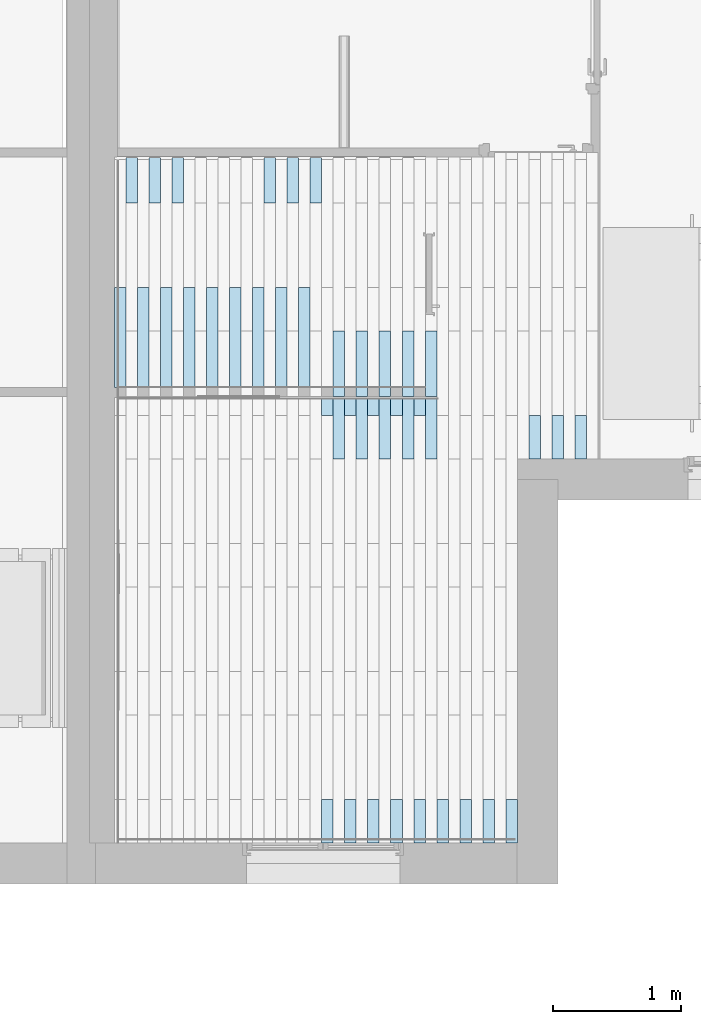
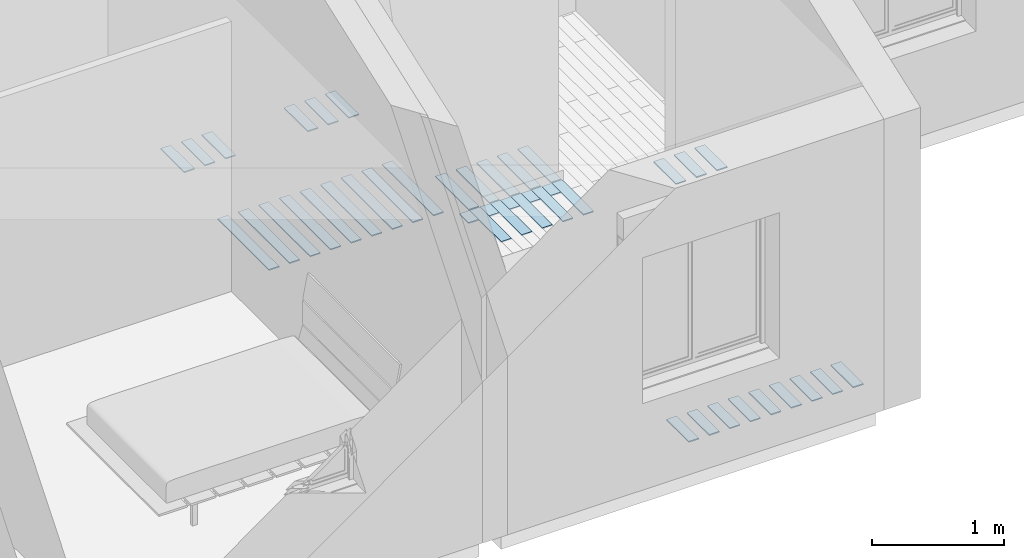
# One storey, part 6 of 61: 42 slabs.
"""IFC2X3 building model written with IfcOpenShell, lengths in metres."""

from ifc_helpers import new_model, entity, si_unit, converted_unit, derived_unit, direction, frame, frame_2d, origin, place, context, subcontext, project, spatial, rectangle, extrude, material, layer, layer_set, layer_usage, type_object, element, save


model = new_model("IFC2X3")

# Units and contexts
model_context = context("Model", 3, precision=1e-05, world=origin(), true_north=direction((6.12303176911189e-17, 1.0)))
body_context = subcontext(model_context, "Body", "Model", "MODEL_VIEW")
ifc_project = project(units=[si_unit("LENGTHUNIT", "METRE"), si_unit("AREAUNIT", "SQUARE_METRE"), si_unit("VOLUMEUNIT", "CUBIC_METRE"), converted_unit("PLANEANGLEUNIT", "DEGREE", entity("IfcRatioMeasure", 0.0174532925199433), si_unit("PLANEANGLEUNIT", "RADIAN"), dimensions=[0, 0, 0, 0, 0, 0, 0]), si_unit("MASSUNIT", "GRAM", prefix="KILO"), derived_unit("MASSDENSITYUNIT", [(si_unit("MASSUNIT", "GRAM", prefix="KILO"), 1), (si_unit("LENGTHUNIT", "METRE"), -3)]), si_unit("TIMEUNIT", "SECOND"), si_unit("FREQUENCYUNIT", "HERTZ"), si_unit("THERMODYNAMICTEMPERATUREUNIT", "DEGREE_CELSIUS"), derived_unit("THERMALTRANSMITTANCEUNIT", [(si_unit("MASSUNIT", "GRAM", prefix="KILO"), 1), (si_unit("THERMODYNAMICTEMPERATUREUNIT", "KELVIN"), -1), (si_unit("TIMEUNIT", "SECOND"), -3)]), derived_unit("VOLUMETRICFLOWRATEUNIT", [(si_unit("LENGTHUNIT", "METRE"), 3), (si_unit("TIMEUNIT", "SECOND"), -1)]), si_unit("ELECTRICCURRENTUNIT", "AMPERE"), si_unit("ELECTRICVOLTAGEUNIT", "VOLT"), si_unit("POWERUNIT", "WATT"), si_unit("FORCEUNIT", "NEWTON", prefix="KILO"), si_unit("ILLUMINANCEUNIT", "LUX"), si_unit("LUMINOUSFLUXUNIT", "LUMEN"), si_unit("LUMINOUSINTENSITYUNIT", "CANDELA"), derived_unit("USERDEFINED", [(si_unit("MASSUNIT", "GRAM", prefix="KILO"), -1), (si_unit("LENGTHUNIT", "METRE"), -2), (si_unit("TIMEUNIT", "SECOND"), 3), (si_unit("LUMINOUSFLUXUNIT", "LUMEN"), 1)]), derived_unit("LINEARVELOCITYUNIT", [(si_unit("LENGTHUNIT", "METRE"), 1), (si_unit("TIMEUNIT", "SECOND"), -1)]), si_unit("PRESSUREUNIT", "PASCAL"), derived_unit("USERDEFINED", [(si_unit("LENGTHUNIT", "METRE"), -2), (si_unit("MASSUNIT", "GRAM", prefix="KILO"), 1), (si_unit("TIMEUNIT", "SECOND"), -2)])], contexts=[model_context])

# Site, building, storey
site_placement = place(None, origin())
site = spatial("IfcSite", under=ifc_project, at=site_placement, Name="Surface", CompositionType="ELEMENT")
building_placement = place(site_placement, origin())
building = spatial("IfcBuilding", under=site, at=building_placement, CompositionType="ELEMENT")
storey_placement = place(building_placement, frame((0.0, 0.0, 2.82)))
storey = spatial("IfcBuildingStorey", under=building, at=storey_placement, Name="ETAGE", CompositionType="ELEMENT", Elevation=2.82)

# Slabs
ifc_material = material(Name="PARQUET BAMBOU")
ifc_layer = layer(ifc_material, 0.01)
ifc_layer_set = layer_set([ifc_layer], Name="Sol:LAME DE BAMBOU")
ifc_layer_usage_1 = layer_usage(ifc_layer_set, "AXIS3", "POSITIVE", 0.0)
slab_type_1 = type_object("IfcSlabType", Name="Sol:LAME DE BAMBOU", PredefinedType="FLOOR", material=ifc_layer_set)
slab_1_placement = place(storey_placement, origin())
element("IfcSlab", 1, at=slab_1_placement, inside=storey, type_object=slab_type_1, material=ifc_layer_usage_1, Name="Sol:LAME DE BAMBOU", ObjectType="Sol:LAME DE BAMBOU", PredefinedType="FLOOR", context=body_context, shape_type="SweptSolid", body=[
    extrude(rectangle(XDim=0.339999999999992, YDim=0.0899999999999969, at=frame_2d((0.0, 8.66320903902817e-15), x_axis=(1.0, 0.0))), frame((85.566089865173, 81.4175239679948, 0.05), z_axis=(0.0, 0.0, -1.0), x_axis=(0.0, 1.0, 0.0)), (0.0, 0.0, 1.0), 0.00999999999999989),
])
ifc_layer_usage_2 = layer_usage(ifc_layer_set, "AXIS3", "POSITIVE", 0.0)
slab_type_2 = type_object("IfcSlabType", Name="Sol:LAME DE BAMBOU", PredefinedType="FLOOR", material=ifc_layer_set)
slab_2_placement = place(storey_placement, origin())
element("IfcSlab", 2, at=slab_2_placement, inside=storey, type_object=slab_type_2, material=ifc_layer_usage_2, Name="Sol:LAME DE BAMBOU", ObjectType="Sol:LAME DE BAMBOU", PredefinedType="FLOOR", context=body_context, shape_type="SweptSolid", body=[
    extrude(rectangle(XDim=0.139570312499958, YDim=0.0899999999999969, at=frame_2d((8.65973959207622e-15, 8.66320903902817e-15), x_axis=(1.0, 0.0))), frame((85.566089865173, 84.6573091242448, 0.05), z_axis=(0.0, 0.0, -1.0), x_axis=(0.0, 1.0, 0.0)), (0.0, 0.0, 1.0), 0.00999999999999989),
])
ifc_layer_usage_3 = layer_usage(ifc_layer_set, "AXIS3", "POSITIVE", 0.0)
slab_type_3 = type_object("IfcSlabType", Name="Sol:LAME DE BAMBOU", PredefinedType="FLOOR", material=ifc_layer_set)
slab_3_placement = place(storey_placement, origin())
element("IfcSlab", 3, at=slab_3_placement, inside=storey, type_object=slab_type_3, material=ifc_layer_usage_3, Name="Sol:LAME DE BAMBOU", ObjectType="Sol:LAME DE BAMBOU", PredefinedType="FLOOR", context=body_context, shape_type="SweptSolid", body=[
    extrude(rectangle(XDim=0.479580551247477, YDim=0.0899999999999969, at=frame_2d((8.65973959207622e-15, -8.66320903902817e-15), x_axis=(1.0, 0.0))), frame((85.656089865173, 84.4873142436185, 0.05), z_axis=(0.0, 0.0, -1.0), x_axis=(0.0, 1.0, 0.0)), (0.0, 0.0, 1.0), 0.00999999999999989),
])
ifc_layer_usage_4 = layer_usage(ifc_layer_set, "AXIS3", "POSITIVE", 0.0)
slab_type_4 = type_object("IfcSlabType", Name="Sol:LAME DE BAMBOU", PredefinedType="FLOOR", material=ifc_layer_set)
slab_4_placement = place(storey_placement, origin())
element("IfcSlab", 4, at=slab_4_placement, inside=storey, type_object=slab_type_4, material=ifc_layer_usage_4, Name="Sol:LAME DE BAMBOU", ObjectType="Sol:LAME DE BAMBOU", PredefinedType="FLOOR", context=body_context, shape_type="SweptSolid", body=[
    extrude(rectangle(XDim=0.339999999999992, YDim=0.0899999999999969, at=frame_2d((0.0, 8.66320903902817e-15), x_axis=(1.0, 0.0))), frame((85.746089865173, 81.4175239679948, 0.05), z_axis=(0.0, 0.0, -1.0), x_axis=(0.0, 1.0, 0.0)), (0.0, 0.0, 1.0), 0.00999999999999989),
])
ifc_layer_usage_5 = layer_usage(ifc_layer_set, "AXIS3", "POSITIVE", 0.0)
slab_type_5 = type_object("IfcSlabType", Name="Sol:LAME DE BAMBOU", PredefinedType="FLOOR", material=ifc_layer_set)
slab_5_placement = place(storey_placement, origin())
element("IfcSlab", 5, at=slab_5_placement, inside=storey, type_object=slab_type_5, material=ifc_layer_usage_5, Name="Sol:LAME DE BAMBOU", ObjectType="Sol:LAME DE BAMBOU", PredefinedType="FLOOR", context=body_context, shape_type="SweptSolid", body=[
    extrude(rectangle(XDim=0.139570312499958, YDim=0.0899999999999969, at=frame_2d((8.65973959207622e-15, 8.66320903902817e-15), x_axis=(1.0, 0.0))), frame((85.746089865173, 84.6573091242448, 0.05), z_axis=(0.0, 0.0, -1.0), x_axis=(0.0, 1.0, 0.0)), (0.0, 0.0, 1.0), 0.00999999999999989),
])
ifc_layer_usage_6 = layer_usage(ifc_layer_set, "AXIS3", "POSITIVE", 0.0)
slab_type_6 = type_object("IfcSlabType", Name="Sol:LAME DE BAMBOU", PredefinedType="FLOOR", material=ifc_layer_set)
slab_6_placement = place(storey_placement, origin())
element("IfcSlab", 6, at=slab_6_placement, inside=storey, type_object=slab_type_6, material=ifc_layer_usage_6, Name="Sol:LAME DE BAMBOU", ObjectType="Sol:LAME DE BAMBOU", PredefinedType="FLOOR", context=body_context, shape_type="SweptSolid", body=[
    extrude(rectangle(XDim=0.479580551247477, YDim=0.0899999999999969, at=frame_2d((8.65973959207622e-15, 8.66320903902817e-15), x_axis=(1.0, 0.0))), frame((85.836089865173, 84.4873142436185, 0.05), z_axis=(0.0, 0.0, -1.0), x_axis=(0.0, 1.0, 0.0)), (0.0, 0.0, 1.0), 0.00999999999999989),
])
ifc_layer_usage_7 = layer_usage(ifc_layer_set, "AXIS3", "POSITIVE", 0.0)
slab_type_7 = type_object("IfcSlabType", Name="Sol:LAME DE BAMBOU", PredefinedType="FLOOR", material=ifc_layer_set)
slab_7_placement = place(storey_placement, origin())
element("IfcSlab", 7, at=slab_7_placement, inside=storey, type_object=slab_type_7, material=ifc_layer_usage_7, Name="Sol:LAME DE BAMBOU", ObjectType="Sol:LAME DE BAMBOU", PredefinedType="FLOOR", context=body_context, shape_type="SweptSolid", body=[
    extrude(rectangle(XDim=0.339999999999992, YDim=0.0899999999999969, at=frame_2d((0.0, 8.66320903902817e-15), x_axis=(1.0, 0.0))), frame((85.926089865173, 81.4175239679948, 0.05), z_axis=(0.0, 0.0, -1.0), x_axis=(0.0, 1.0, 0.0)), (0.0, 0.0, 1.0), 0.00999999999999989),
])
ifc_layer_usage_8 = layer_usage(ifc_layer_set, "AXIS3", "POSITIVE", 0.0)
slab_type_8 = type_object("IfcSlabType", Name="Sol:LAME DE BAMBOU", PredefinedType="FLOOR", material=ifc_layer_set)
slab_8_placement = place(storey_placement, origin())
element("IfcSlab", 8, at=slab_8_placement, inside=storey, type_object=slab_type_8, material=ifc_layer_usage_8, Name="Sol:LAME DE BAMBOU", ObjectType="Sol:LAME DE BAMBOU", PredefinedType="FLOOR", context=body_context, shape_type="SweptSolid", body=[
    extrude(rectangle(XDim=0.139570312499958, YDim=0.0899999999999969, at=frame_2d((8.65973959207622e-15, 8.66320903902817e-15), x_axis=(1.0, 0.0))), frame((85.926089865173, 84.6573091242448, 0.05), z_axis=(0.0, 0.0, -1.0), x_axis=(0.0, 1.0, 0.0)), (0.0, 0.0, 1.0), 0.00999999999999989),
])
ifc_layer_usage_9 = layer_usage(ifc_layer_set, "AXIS3", "POSITIVE", 0.0)
slab_type_9 = type_object("IfcSlabType", Name="Sol:LAME DE BAMBOU", PredefinedType="FLOOR", material=ifc_layer_set)
slab_9_placement = place(storey_placement, origin())
element("IfcSlab", 9, at=slab_9_placement, inside=storey, type_object=slab_type_9, material=ifc_layer_usage_9, Name="Sol:LAME DE BAMBOU", ObjectType="Sol:LAME DE BAMBOU", PredefinedType="FLOOR", context=body_context, shape_type="SweptSolid", body=[
    extrude(rectangle(XDim=0.479580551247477, YDim=0.0899999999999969, at=frame_2d((8.65973959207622e-15, -8.66320903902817e-15), x_axis=(1.0, 0.0))), frame((86.016089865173, 84.4873142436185, 0.05), z_axis=(0.0, 0.0, -1.0), x_axis=(0.0, 1.0, 0.0)), (0.0, 0.0, 1.0), 0.00999999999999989),
])
ifc_layer_usage_10 = layer_usage(ifc_layer_set, "AXIS3", "POSITIVE", 0.0)
slab_type_10 = type_object("IfcSlabType", Name="Sol:LAME DE BAMBOU", PredefinedType="FLOOR", material=ifc_layer_set)
slab_10_placement = place(storey_placement, origin())
element("IfcSlab", 10, at=slab_10_placement, inside=storey, type_object=slab_type_10, material=ifc_layer_usage_10, Name="Sol:LAME DE BAMBOU", ObjectType="Sol:LAME DE BAMBOU", PredefinedType="FLOOR", context=body_context, shape_type="SweptSolid", body=[
    extrude(rectangle(XDim=0.339999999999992, YDim=0.0899999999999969, at=frame_2d((0.0, 8.66320903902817e-15), x_axis=(1.0, 0.0))), frame((86.106089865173, 81.4175239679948, 0.05), z_axis=(0.0, 0.0, -1.0), x_axis=(0.0, 1.0, 0.0)), (0.0, 0.0, 1.0), 0.00999999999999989),
])
ifc_layer_usage_11 = layer_usage(ifc_layer_set, "AXIS3", "POSITIVE", 0.0)
slab_type_11 = type_object("IfcSlabType", Name="Sol:LAME DE BAMBOU", PredefinedType="FLOOR", material=ifc_layer_set)
slab_11_placement = place(storey_placement, origin())
element("IfcSlab", 11, at=slab_11_placement, inside=storey, type_object=slab_type_11, material=ifc_layer_usage_11, Name="Sol:LAME DE BAMBOU", ObjectType="Sol:LAME DE BAMBOU", PredefinedType="FLOOR", context=body_context, shape_type="SweptSolid", body=[
    extrude(rectangle(XDim=0.139570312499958, YDim=0.0899999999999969, at=frame_2d((8.65973959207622e-15, 8.66320903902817e-15), x_axis=(1.0, 0.0))), frame((86.106089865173, 84.6573091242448, 0.05), z_axis=(0.0, 0.0, -1.0), x_axis=(0.0, 1.0, 0.0)), (0.0, 0.0, 1.0), 0.00999999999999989),
])
ifc_layer_usage_12 = layer_usage(ifc_layer_set, "AXIS3", "POSITIVE", 0.0)
slab_type_12 = type_object("IfcSlabType", Name="Sol:LAME DE BAMBOU", PredefinedType="FLOOR", material=ifc_layer_set)
slab_12_placement = place(storey_placement, origin())
element("IfcSlab", 12, at=slab_12_placement, inside=storey, type_object=slab_type_12, material=ifc_layer_usage_12, Name="Sol:LAME DE BAMBOU", ObjectType="Sol:LAME DE BAMBOU", PredefinedType="FLOOR", context=body_context, shape_type="SweptSolid", body=[
    extrude(rectangle(XDim=0.479580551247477, YDim=0.0899999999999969, at=frame_2d((8.65973959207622e-15, 8.66320903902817e-15), x_axis=(1.0, 0.0))), frame((86.196089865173, 84.4873142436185, 0.05), z_axis=(0.0, 0.0, -1.0), x_axis=(0.0, 1.0, 0.0)), (0.0, 0.0, 1.0), 0.00999999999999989),
])
ifc_layer_usage_13 = layer_usage(ifc_layer_set, "AXIS3", "POSITIVE", 0.0)
slab_type_13 = type_object("IfcSlabType", Name="Sol:LAME DE BAMBOU", PredefinedType="FLOOR", material=ifc_layer_set)
slab_13_placement = place(storey_placement, origin())
element("IfcSlab", 13, at=slab_13_placement, inside=storey, type_object=slab_type_13, material=ifc_layer_usage_13, Name="Sol:LAME DE BAMBOU", ObjectType="Sol:LAME DE BAMBOU", PredefinedType="FLOOR", context=body_context, shape_type="SweptSolid", body=[
    extrude(rectangle(XDim=0.339999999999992, YDim=0.0899999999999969, at=frame_2d((0.0, 8.66320903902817e-15), x_axis=(1.0, 0.0))), frame((86.286089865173, 81.4175239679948, 0.05), z_axis=(0.0, 0.0, -1.0), x_axis=(0.0, 1.0, 0.0)), (0.0, 0.0, 1.0), 0.00999999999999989),
])
ifc_layer_usage_14 = layer_usage(ifc_layer_set, "AXIS3", "POSITIVE", 0.0)
slab_type_14 = type_object("IfcSlabType", Name="Sol:LAME DE BAMBOU", PredefinedType="FLOOR", material=ifc_layer_set)
slab_14_placement = place(storey_placement, origin())
element("IfcSlab", 14, at=slab_14_placement, inside=storey, type_object=slab_type_14, material=ifc_layer_usage_14, Name="Sol:LAME DE BAMBOU", ObjectType="Sol:LAME DE BAMBOU", PredefinedType="FLOOR", context=body_context, shape_type="SweptSolid", body=[
    extrude(rectangle(XDim=0.139570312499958, YDim=0.0899999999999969, at=frame_2d((8.65973959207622e-15, 8.66320903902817e-15), x_axis=(1.0, 0.0))), frame((86.286089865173, 84.6573091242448, 0.05), z_axis=(0.0, 0.0, -1.0), x_axis=(0.0, 1.0, 0.0)), (0.0, 0.0, 1.0), 0.00999999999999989),
])
ifc_layer_usage_15 = layer_usage(ifc_layer_set, "AXIS3", "POSITIVE", 0.0)
slab_type_15 = type_object("IfcSlabType", Name="Sol:LAME DE BAMBOU", PredefinedType="FLOOR", material=ifc_layer_set)
slab_15_placement = place(storey_placement, origin())
element("IfcSlab", 15, at=slab_15_placement, inside=storey, type_object=slab_type_15, material=ifc_layer_usage_15, Name="Sol:LAME DE BAMBOU", ObjectType="Sol:LAME DE BAMBOU", PredefinedType="FLOOR", context=body_context, shape_type="SweptSolid", body=[
    extrude(rectangle(XDim=0.479580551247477, YDim=0.0899999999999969, at=frame_2d((8.65973959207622e-15, -8.66320903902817e-15), x_axis=(1.0, 0.0))), frame((86.376089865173, 84.4873142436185, 0.05), z_axis=(0.0, 0.0, -1.0), x_axis=(0.0, 1.0, 0.0)), (0.0, 0.0, 1.0), 0.00999999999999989),
])
ifc_layer_usage_16 = layer_usage(ifc_layer_set, "AXIS3", "POSITIVE", 0.0)
slab_type_16 = type_object("IfcSlabType", Name="Sol:LAME DE BAMBOU", PredefinedType="FLOOR", material=ifc_layer_set)
slab_16_placement = place(storey_placement, origin())
element("IfcSlab", 16, at=slab_16_placement, inside=storey, type_object=slab_type_16, material=ifc_layer_usage_16, Name="Sol:LAME DE BAMBOU", ObjectType="Sol:LAME DE BAMBOU", PredefinedType="FLOOR", context=body_context, shape_type="SweptSolid", body=[
    extrude(rectangle(XDim=0.339999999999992, YDim=0.0899999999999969, at=frame_2d((0.0, 8.66320903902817e-15), x_axis=(1.0, 0.0))), frame((86.466089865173, 81.4175239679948, 0.05), z_axis=(0.0, 0.0, -1.0), x_axis=(0.0, 1.0, 0.0)), (0.0, 0.0, 1.0), 0.00999999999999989),
])
ifc_layer_usage_17 = layer_usage(ifc_layer_set, "AXIS3", "POSITIVE", 0.0)
slab_type_17 = type_object("IfcSlabType", Name="Sol:LAME DE BAMBOU", PredefinedType="FLOOR", material=ifc_layer_set)
slab_17_placement = place(storey_placement, origin())
element("IfcSlab", 17, at=slab_17_placement, inside=storey, type_object=slab_type_17, material=ifc_layer_usage_17, Name="Sol:LAME DE BAMBOU", ObjectType="Sol:LAME DE BAMBOU", PredefinedType="FLOOR", context=body_context, shape_type="SweptSolid", body=[
    extrude(rectangle(XDim=0.339999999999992, YDim=0.0899999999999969, at=frame_2d((0.0, 8.66320903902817e-15), x_axis=(1.0, 0.0))), frame((86.646089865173, 81.4175239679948, 0.05), z_axis=(0.0, 0.0, -1.0), x_axis=(0.0, 1.0, 0.0)), (0.0, 0.0, 1.0), 0.00999999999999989),
])
ifc_layer_usage_18 = layer_usage(ifc_layer_set, "AXIS3", "POSITIVE", 0.0)
slab_type_18 = type_object("IfcSlabType", Name="Sol:LAME DE BAMBOU", PredefinedType="FLOOR", material=ifc_layer_set)
slab_18_placement = place(storey_placement, origin())
element("IfcSlab", 18, at=slab_18_placement, inside=storey, type_object=slab_type_18, material=ifc_layer_usage_18, Name="Sol:LAME DE BAMBOU", ObjectType="Sol:LAME DE BAMBOU", PredefinedType="FLOOR", context=body_context, shape_type="SweptSolid", body=[
    extrude(rectangle(XDim=0.339999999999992, YDim=0.0899999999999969, at=frame_2d((0.0, 8.66320903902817e-15), x_axis=(1.0, 0.0))), frame((86.826089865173, 81.4175239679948, 0.05), z_axis=(0.0, 0.0, -1.0), x_axis=(0.0, 1.0, 0.0)), (0.0, 0.0, 1.0), 0.00999999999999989),
])
ifc_layer_usage_19 = layer_usage(ifc_layer_set, "AXIS3", "POSITIVE", 0.0)
slab_type_19 = type_object("IfcSlabType", Name="Sol:LAME DE BAMBOU", PredefinedType="FLOOR", material=ifc_layer_set)
slab_19_placement = place(storey_placement, origin())
element("IfcSlab", 19, at=slab_19_placement, inside=storey, type_object=slab_type_19, material=ifc_layer_usage_19, Name="Sol:LAME DE BAMBOU", ObjectType="Sol:LAME DE BAMBOU", PredefinedType="FLOOR", context=body_context, shape_type="SweptSolid", body=[
    extrude(rectangle(XDim=0.339999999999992, YDim=0.0899999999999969, at=frame_2d((0.0, 8.66320903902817e-15), x_axis=(1.0, 0.0))), frame((87.006089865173, 81.4175239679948, 0.05), z_axis=(0.0, 0.0, -1.0), x_axis=(0.0, 1.0, 0.0)), (0.0, 0.0, 1.0), 0.00999999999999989),
])
ifc_layer_usage_20 = layer_usage(ifc_layer_set, "AXIS3", "POSITIVE", 0.0)
slab_type_20 = type_object("IfcSlabType", Name="Sol:LAME DE BAMBOU", PredefinedType="FLOOR", material=ifc_layer_set)
slab_20_placement = place(storey_placement, origin())
element("IfcSlab", 20, at=slab_20_placement, inside=storey, type_object=slab_type_20, material=ifc_layer_usage_20, Name="Sol:LAME DE BAMBOU", ObjectType="Sol:LAME DE BAMBOU", PredefinedType="FLOOR", context=body_context, shape_type="SweptSolid", body=[
    extrude(rectangle(XDim=0.339999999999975, YDim=0.0899999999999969, at=frame_2d((-8.67361737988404e-15, 8.66320903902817e-15), x_axis=(1.0, 0.0))), frame((87.1861607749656, 84.4175239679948, 0.05), z_axis=(0.0, 0.0, -1.0), x_axis=(0.0, 1.0, 0.0)), (0.0, 0.0, 1.0), 0.00999999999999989),
])
ifc_layer_usage_21 = layer_usage(ifc_layer_set, "AXIS3", "POSITIVE", 0.0)
slab_type_21 = type_object("IfcSlabType", Name="Sol:LAME DE BAMBOU", PredefinedType="FLOOR", material=ifc_layer_set)
slab_21_placement = place(storey_placement, origin())
element("IfcSlab", 21, at=slab_21_placement, inside=storey, type_object=slab_type_21, material=ifc_layer_usage_21, Name="Sol:LAME DE BAMBOU", ObjectType="Sol:LAME DE BAMBOU", PredefinedType="FLOOR", context=body_context, shape_type="SweptSolid", body=[
    extrude(rectangle(XDim=0.339999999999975, YDim=0.0899999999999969, at=frame_2d((-8.67361737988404e-15, -8.66320903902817e-15), x_axis=(1.0, 0.0))), frame((87.3661607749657, 84.4175239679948, 0.05), z_axis=(0.0, 0.0, -1.0), x_axis=(0.0, 1.0, 0.0)), (0.0, 0.0, 1.0), 0.00999999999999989),
])
ifc_layer_usage_22 = layer_usage(ifc_layer_set, "AXIS3", "POSITIVE", 0.0)
slab_type_22 = type_object("IfcSlabType", Name="Sol:LAME DE BAMBOU", PredefinedType="FLOOR", material=ifc_layer_set)
slab_22_placement = place(storey_placement, origin())
element("IfcSlab", 22, at=slab_22_placement, inside=storey, type_object=slab_type_22, material=ifc_layer_usage_22, Name="Sol:LAME DE BAMBOU", ObjectType="Sol:LAME DE BAMBOU", PredefinedType="FLOOR", context=body_context, shape_type="SweptSolid", body=[
    extrude(rectangle(XDim=0.339999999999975, YDim=0.0899999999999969, at=frame_2d((-8.67361737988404e-15, 8.66320903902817e-15), x_axis=(1.0, 0.0))), frame((87.5461607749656, 84.4175239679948, 0.05), z_axis=(0.0, 0.0, -1.0), x_axis=(0.0, 1.0, 0.0)), (0.0, 0.0, 1.0), 0.00999999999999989),
])
ifc_layer_usage_23 = layer_usage(ifc_layer_set, "AXIS3", "POSITIVE", 0.0)
slab_type_23 = type_object("IfcSlabType", Name="Sol:LAME DE BAMBOU", PredefinedType="FLOOR", material=ifc_layer_set)
slab_23_placement = place(storey_placement, origin())
element("IfcSlab", 23, at=slab_23_placement, inside=storey, type_object=slab_type_23, material=ifc_layer_usage_23, Name="Sol:LAME DE BAMBOU", ObjectType="Sol:LAME DE BAMBOU", PredefinedType="FLOOR", context=body_context, shape_type="SweptSolid", body=[
    extrude(rectangle(XDim=0.510000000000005, YDim=0.0899999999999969, at=frame_2d((-8.65973959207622e-15, -8.66320903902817e-15), x_axis=(1.0, 0.0))), frame((86.376089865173, 84.9925239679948, 0.05), z_axis=(0.0, 0.0, -1.0), x_axis=(0.0, 1.0, 0.0)), (0.0, 0.0, 1.0), 0.00999999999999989),
])
ifc_layer_usage_24 = layer_usage(ifc_layer_set, "AXIS3", "POSITIVE", 0.0)
slab_type_24 = type_object("IfcSlabType", Name="Sol:LAME DE BAMBOU", PredefinedType="FLOOR", material=ifc_layer_set)
slab_24_placement = place(storey_placement, origin())
element("IfcSlab", 24, at=slab_24_placement, inside=storey, type_object=slab_type_24, material=ifc_layer_usage_24, Name="Sol:LAME DE BAMBOU", ObjectType="Sol:LAME DE BAMBOU", PredefinedType="FLOOR", context=body_context, shape_type="SweptSolid", body=[
    extrude(rectangle(XDim=0.510000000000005, YDim=0.0899999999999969, at=frame_2d((-8.65973959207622e-15, 8.66320903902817e-15), x_axis=(1.0, 0.0))), frame((86.1960898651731, 84.9925239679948, 0.05), z_axis=(0.0, 0.0, -1.0), x_axis=(0.0, 1.0, 0.0)), (0.0, 0.0, 1.0), 0.00999999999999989),
])
ifc_layer_usage_25 = layer_usage(ifc_layer_set, "AXIS3", "POSITIVE", 0.0)
slab_type_25 = type_object("IfcSlabType", Name="Sol:LAME DE BAMBOU", PredefinedType="FLOOR", material=ifc_layer_set)
slab_25_placement = place(storey_placement, origin())
element("IfcSlab", 25, at=slab_25_placement, inside=storey, type_object=slab_type_25, material=ifc_layer_usage_25, Name="Sol:LAME DE BAMBOU", ObjectType="Sol:LAME DE BAMBOU", PredefinedType="FLOOR", context=body_context, shape_type="SweptSolid", body=[
    extrude(rectangle(XDim=0.510000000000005, YDim=0.0899999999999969, at=frame_2d((-8.65973959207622e-15, 8.66320903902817e-15), x_axis=(1.0, 0.0))), frame((86.0160898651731, 84.9925239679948, 0.05), z_axis=(0.0, 0.0, -1.0), x_axis=(0.0, 1.0, 0.0)), (0.0, 0.0, 1.0), 0.00999999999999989),
])
ifc_layer_usage_26 = layer_usage(ifc_layer_set, "AXIS3", "POSITIVE", 0.0)
slab_type_26 = type_object("IfcSlabType", Name="Sol:LAME DE BAMBOU", PredefinedType="FLOOR", material=ifc_layer_set)
slab_26_placement = place(storey_placement, origin())
element("IfcSlab", 26, at=slab_26_placement, inside=storey, type_object=slab_type_26, material=ifc_layer_usage_26, Name="Sol:LAME DE BAMBOU", ObjectType="Sol:LAME DE BAMBOU", PredefinedType="FLOOR", context=body_context, shape_type="SweptSolid", body=[
    extrude(rectangle(XDim=0.510000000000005, YDim=0.0899999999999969, at=frame_2d((-8.65973959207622e-15, 8.66320903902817e-15), x_axis=(1.0, 0.0))), frame((85.8360898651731, 84.9925239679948, 0.05), z_axis=(0.0, 0.0, -1.0), x_axis=(0.0, 1.0, 0.0)), (0.0, 0.0, 1.0), 0.00999999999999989),
])
ifc_layer_usage_27 = layer_usage(ifc_layer_set, "AXIS3", "POSITIVE", 0.0)
slab_type_27 = type_object("IfcSlabType", Name="Sol:LAME DE BAMBOU", PredefinedType="FLOOR", material=ifc_layer_set)
slab_27_placement = place(storey_placement, origin())
element("IfcSlab", 27, at=slab_27_placement, inside=storey, type_object=slab_type_27, material=ifc_layer_usage_27, Name="Sol:LAME DE BAMBOU", ObjectType="Sol:LAME DE BAMBOU", PredefinedType="FLOOR", context=body_context, shape_type="SweptSolid", body=[
    extrude(rectangle(XDim=0.510000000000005, YDim=0.0899999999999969, at=frame_2d((-8.65973959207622e-15, 8.66320903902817e-15), x_axis=(1.0, 0.0))), frame((85.6560898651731, 84.9925239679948, 0.05), z_axis=(0.0, 0.0, -1.0), x_axis=(0.0, 1.0, 0.0)), (0.0, 0.0, 1.0), 0.00999999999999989),
])
ifc_layer_usage_28 = layer_usage(ifc_layer_set, "AXIS3", "POSITIVE", 0.0)
slab_type_28 = type_object("IfcSlabType", Name="Sol:LAME DE BAMBOU", PredefinedType="FLOOR", material=ifc_layer_set)
slab_28_placement = place(storey_placement, origin())
element("IfcSlab", 28, at=slab_28_placement, inside=storey, type_object=slab_type_28, material=ifc_layer_usage_28, Name="Sol:LAME DE BAMBOU", ObjectType="Sol:LAME DE BAMBOU", PredefinedType="FLOOR", context=body_context, shape_type="SweptSolid", body=[
    extrude(rectangle(XDim=0.360000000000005, YDim=0.0899999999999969, at=frame_2d((-8.67361737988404e-15, 8.66320903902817e-15), x_axis=(1.0, 0.0))), frame((85.4760898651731, 86.4275239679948, 0.05), z_axis=(0.0, 0.0, -1.0), x_axis=(0.0, 1.0, 0.0)), (0.0, 0.0, 1.0), 0.00999999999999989),
])
ifc_layer_usage_29 = layer_usage(ifc_layer_set, "AXIS3", "POSITIVE", 0.0)
slab_type_29 = type_object("IfcSlabType", Name="Sol:LAME DE BAMBOU", PredefinedType="FLOOR", material=ifc_layer_set)
slab_29_placement = place(storey_placement, origin())
element("IfcSlab", 29, at=slab_29_placement, inside=storey, type_object=slab_type_29, material=ifc_layer_usage_29, Name="Sol:LAME DE BAMBOU", ObjectType="Sol:LAME DE BAMBOU", PredefinedType="FLOOR", context=body_context, shape_type="SweptSolid", body=[
    extrude(rectangle(XDim=0.779999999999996, YDim=0.0899999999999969, at=frame_2d((0.0, 8.66320903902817e-15), x_axis=(1.0, 0.0))), frame((85.386089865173, 85.1975239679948, 0.05), z_axis=(0.0, 0.0, -1.0), x_axis=(0.0, 1.0, 0.0)), (0.0, 0.0, 1.0), 0.00999999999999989),
])
ifc_layer_usage_30 = layer_usage(ifc_layer_set, "AXIS3", "POSITIVE", 0.0)
slab_type_30 = type_object("IfcSlabType", Name="Sol:LAME DE BAMBOU", PredefinedType="FLOOR", material=ifc_layer_set)
slab_30_placement = place(storey_placement, origin())
element("IfcSlab", 30, at=slab_30_placement, inside=storey, type_object=slab_type_30, material=ifc_layer_usage_30, Name="Sol:LAME DE BAMBOU", ObjectType="Sol:LAME DE BAMBOU", PredefinedType="FLOOR", context=body_context, shape_type="SweptSolid", body=[
    extrude(rectangle(XDim=0.360000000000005, YDim=0.0899999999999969, at=frame_2d((-8.67361737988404e-15, 8.66320903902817e-15), x_axis=(1.0, 0.0))), frame((85.2960898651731, 86.4275239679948, 0.05), z_axis=(0.0, 0.0, -1.0), x_axis=(0.0, 1.0, 0.0)), (0.0, 0.0, 1.0), 0.00999999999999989),
])
ifc_layer_usage_31 = layer_usage(ifc_layer_set, "AXIS3", "POSITIVE", 0.0)
slab_type_31 = type_object("IfcSlabType", Name="Sol:LAME DE BAMBOU", PredefinedType="FLOOR", material=ifc_layer_set)
slab_31_placement = place(storey_placement, origin())
element("IfcSlab", 31, at=slab_31_placement, inside=storey, type_object=slab_type_31, material=ifc_layer_usage_31, Name="Sol:LAME DE BAMBOU", ObjectType="Sol:LAME DE BAMBOU", PredefinedType="FLOOR", context=body_context, shape_type="SweptSolid", body=[
    extrude(rectangle(XDim=0.779999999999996, YDim=0.0899999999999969, at=frame_2d((0.0, 8.66320903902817e-15), x_axis=(1.0, 0.0))), frame((85.206089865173, 85.1975239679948, 0.05), z_axis=(0.0, 0.0, -1.0), x_axis=(0.0, 1.0, 0.0)), (0.0, 0.0, 1.0), 0.00999999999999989),
])
ifc_layer_usage_32 = layer_usage(ifc_layer_set, "AXIS3", "POSITIVE", 0.0)
slab_type_32 = type_object("IfcSlabType", Name="Sol:LAME DE BAMBOU", PredefinedType="FLOOR", material=ifc_layer_set)
slab_32_placement = place(storey_placement, origin())
element("IfcSlab", 32, at=slab_32_placement, inside=storey, type_object=slab_type_32, material=ifc_layer_usage_32, Name="Sol:LAME DE BAMBOU", ObjectType="Sol:LAME DE BAMBOU", PredefinedType="FLOOR", context=body_context, shape_type="SweptSolid", body=[
    extrude(rectangle(XDim=0.360000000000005, YDim=0.0899999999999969, at=frame_2d((-8.67361737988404e-15, 8.66320903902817e-15), x_axis=(1.0, 0.0))), frame((85.1160898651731, 86.4275239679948, 0.05), z_axis=(0.0, 0.0, -1.0), x_axis=(0.0, 1.0, 0.0)), (0.0, 0.0, 1.0), 0.00999999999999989),
])
ifc_layer_usage_33 = layer_usage(ifc_layer_set, "AXIS3", "POSITIVE", 0.0)
slab_type_33 = type_object("IfcSlabType", Name="Sol:LAME DE BAMBOU", PredefinedType="FLOOR", material=ifc_layer_set)
slab_33_placement = place(storey_placement, origin())
element("IfcSlab", 33, at=slab_33_placement, inside=storey, type_object=slab_type_33, material=ifc_layer_usage_33, Name="Sol:LAME DE BAMBOU", ObjectType="Sol:LAME DE BAMBOU", PredefinedType="FLOOR", context=body_context, shape_type="SweptSolid", body=[
    extrude(rectangle(XDim=0.779999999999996, YDim=0.0899999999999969, at=frame_2d((0.0, 8.66320903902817e-15), x_axis=(1.0, 0.0))), frame((85.0260898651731, 85.1975239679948, 0.05), z_axis=(0.0, 0.0, -1.0), x_axis=(0.0, 1.0, 0.0)), (0.0, 0.0, 1.0), 0.00999999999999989),
])
ifc_layer_usage_34 = layer_usage(ifc_layer_set, "AXIS3", "POSITIVE", 0.0)
slab_type_34 = type_object("IfcSlabType", Name="Sol:LAME DE BAMBOU", PredefinedType="FLOOR", material=ifc_layer_set)
slab_34_placement = place(storey_placement, origin())
element("IfcSlab", 34, at=slab_34_placement, inside=storey, type_object=slab_type_34, material=ifc_layer_usage_34, Name="Sol:LAME DE BAMBOU", ObjectType="Sol:LAME DE BAMBOU", PredefinedType="FLOOR", context=body_context, shape_type="SweptSolid", body=[
    extrude(rectangle(XDim=0.779999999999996, YDim=0.0899999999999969, at=frame_2d((0.0, -8.66320903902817e-15), x_axis=(1.0, 0.0))), frame((84.8460898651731, 85.1975239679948, 0.05), z_axis=(0.0, 0.0, -1.0), x_axis=(0.0, 1.0, 0.0)), (0.0, 0.0, 1.0), 0.00999999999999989),
])
ifc_layer_usage_35 = layer_usage(ifc_layer_set, "AXIS3", "POSITIVE", 0.0)
slab_type_35 = type_object("IfcSlabType", Name="Sol:LAME DE BAMBOU", PredefinedType="FLOOR", material=ifc_layer_set)
slab_35_placement = place(storey_placement, origin())
element("IfcSlab", 35, at=slab_35_placement, inside=storey, type_object=slab_type_35, material=ifc_layer_usage_35, Name="Sol:LAME DE BAMBOU", ObjectType="Sol:LAME DE BAMBOU", PredefinedType="FLOOR", context=body_context, shape_type="SweptSolid", body=[
    extrude(rectangle(XDim=0.779999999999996, YDim=0.0899999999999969, at=frame_2d((0.0, 8.66320903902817e-15), x_axis=(1.0, 0.0))), frame((84.6660898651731, 85.1975239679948, 0.05), z_axis=(0.0, 0.0, -1.0), x_axis=(0.0, 1.0, 0.0)), (0.0, 0.0, 1.0), 0.00999999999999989),
])
ifc_layer_usage_36 = layer_usage(ifc_layer_set, "AXIS3", "POSITIVE", 0.0)
slab_type_36 = type_object("IfcSlabType", Name="Sol:LAME DE BAMBOU", PredefinedType="FLOOR", material=ifc_layer_set)
slab_36_placement = place(storey_placement, origin())
element("IfcSlab", 36, at=slab_36_placement, inside=storey, type_object=slab_type_36, material=ifc_layer_usage_36, Name="Sol:LAME DE BAMBOU", ObjectType="Sol:LAME DE BAMBOU", PredefinedType="FLOOR", context=body_context, shape_type="SweptSolid", body=[
    extrude(rectangle(XDim=0.779999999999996, YDim=0.0899999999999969, at=frame_2d((0.0, -8.66320903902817e-15), x_axis=(1.0, 0.0))), frame((84.4860898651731, 85.1975239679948, 0.05), z_axis=(0.0, 0.0, -1.0), x_axis=(0.0, 1.0, 0.0)), (0.0, 0.0, 1.0), 0.00999999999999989),
])
ifc_layer_usage_37 = layer_usage(ifc_layer_set, "AXIS3", "POSITIVE", 0.0)
slab_type_37 = type_object("IfcSlabType", Name="Sol:LAME DE BAMBOU", PredefinedType="FLOOR", material=ifc_layer_set)
slab_37_placement = place(storey_placement, origin())
element("IfcSlab", 37, at=slab_37_placement, inside=storey, type_object=slab_type_37, material=ifc_layer_usage_37, Name="Sol:LAME DE BAMBOU", ObjectType="Sol:LAME DE BAMBOU", PredefinedType="FLOOR", context=body_context, shape_type="SweptSolid", body=[
    extrude(rectangle(XDim=0.360000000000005, YDim=0.0899999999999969, at=frame_2d((-8.67361737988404e-15, -8.66320903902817e-15), x_axis=(1.0, 0.0))), frame((84.3960898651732, 86.4275239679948, 0.05), z_axis=(0.0, 0.0, -1.0), x_axis=(0.0, 1.0, 0.0)), (0.0, 0.0, 1.0), 0.00999999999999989),
])
ifc_layer_usage_38 = layer_usage(ifc_layer_set, "AXIS3", "POSITIVE", 0.0)
slab_type_38 = type_object("IfcSlabType", Name="Sol:LAME DE BAMBOU", PredefinedType="FLOOR", material=ifc_layer_set)
slab_38_placement = place(storey_placement, origin())
element("IfcSlab", 38, at=slab_38_placement, inside=storey, type_object=slab_type_38, material=ifc_layer_usage_38, Name="Sol:LAME DE BAMBOU", ObjectType="Sol:LAME DE BAMBOU", PredefinedType="FLOOR", context=body_context, shape_type="SweptSolid", body=[
    extrude(rectangle(XDim=0.779999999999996, YDim=0.0899999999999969, at=frame_2d((0.0, 8.66320903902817e-15), x_axis=(1.0, 0.0))), frame((84.3060898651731, 85.1975239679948, 0.05), z_axis=(0.0, 0.0, -1.0), x_axis=(0.0, 1.0, 0.0)), (0.0, 0.0, 1.0), 0.00999999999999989),
])
ifc_layer_usage_39 = layer_usage(ifc_layer_set, "AXIS3", "POSITIVE", 0.0)
slab_type_39 = type_object("IfcSlabType", Name="Sol:LAME DE BAMBOU", PredefinedType="FLOOR", material=ifc_layer_set)
slab_39_placement = place(storey_placement, origin())
element("IfcSlab", 39, at=slab_39_placement, inside=storey, type_object=slab_type_39, material=ifc_layer_usage_39, Name="Sol:LAME DE BAMBOU", ObjectType="Sol:LAME DE BAMBOU", PredefinedType="FLOOR", context=body_context, shape_type="SweptSolid", body=[
    extrude(rectangle(XDim=0.360000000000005, YDim=0.0899999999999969, at=frame_2d((-8.67361737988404e-15, 8.66320903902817e-15), x_axis=(1.0, 0.0))), frame((84.2160898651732, 86.4275239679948, 0.05), z_axis=(0.0, 0.0, -1.0), x_axis=(0.0, 1.0, 0.0)), (0.0, 0.0, 1.0), 0.00999999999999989),
])
ifc_layer_usage_40 = layer_usage(ifc_layer_set, "AXIS3", "POSITIVE", 0.0)
slab_type_40 = type_object("IfcSlabType", Name="Sol:LAME DE BAMBOU", PredefinedType="FLOOR", material=ifc_layer_set)
slab_40_placement = place(storey_placement, origin())
element("IfcSlab", 40, at=slab_40_placement, inside=storey, type_object=slab_type_40, material=ifc_layer_usage_40, Name="Sol:LAME DE BAMBOU", ObjectType="Sol:LAME DE BAMBOU", PredefinedType="FLOOR", context=body_context, shape_type="SweptSolid", body=[
    extrude(rectangle(XDim=0.779999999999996, YDim=0.0899999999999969, at=frame_2d((0.0, -8.66320903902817e-15), x_axis=(1.0, 0.0))), frame((84.1260898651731, 85.1975239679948, 0.05), z_axis=(0.0, 0.0, -1.0), x_axis=(0.0, 1.0, 0.0)), (0.0, 0.0, 1.0), 0.00999999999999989),
])
ifc_layer_usage_41 = layer_usage(ifc_layer_set, "AXIS3", "POSITIVE", 0.0)
slab_type_41 = type_object("IfcSlabType", Name="Sol:LAME DE BAMBOU", PredefinedType="FLOOR", material=ifc_layer_set)
slab_41_placement = place(storey_placement, origin())
element("IfcSlab", 41, at=slab_41_placement, inside=storey, type_object=slab_type_41, material=ifc_layer_usage_41, Name="Sol:LAME DE BAMBOU", ObjectType="Sol:LAME DE BAMBOU", PredefinedType="FLOOR", context=body_context, shape_type="SweptSolid", body=[
    extrude(rectangle(XDim=0.360000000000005, YDim=0.0899999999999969, at=frame_2d((-8.67361737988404e-15, -8.66320903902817e-15), x_axis=(1.0, 0.0))), frame((84.0360898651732, 86.4275239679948, 0.05), z_axis=(0.0, 0.0, -1.0), x_axis=(0.0, 1.0, 0.0)), (0.0, 0.0, 1.0), 0.00999999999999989),
])
ifc_layer_usage_42 = layer_usage(ifc_layer_set, "AXIS3", "POSITIVE", 0.0)
slab_type_42 = type_object("IfcSlabType", Name="Sol:LAME DE BAMBOU", PredefinedType="FLOOR", material=ifc_layer_set)
slab_42_placement = place(storey_placement, origin())
element("IfcSlab", 42, at=slab_42_placement, inside=storey, type_object=slab_type_42, material=ifc_layer_usage_42, Name="Sol:LAME DE BAMBOU", ObjectType="Sol:LAME DE BAMBOU", PredefinedType="FLOOR", context=body_context, shape_type="SweptSolid", body=[
    extrude(rectangle(XDim=0.779999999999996, YDim=0.0899999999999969, at=frame_2d((0.0, 8.66320903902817e-15), x_axis=(1.0, 0.0))), frame((83.9460898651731, 85.1975239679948, 0.05), z_axis=(0.0, 0.0, -1.0), x_axis=(0.0, 1.0, 0.0)), (0.0, 0.0, 1.0), 0.00999999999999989),
])

save(model, "model.ifc")
